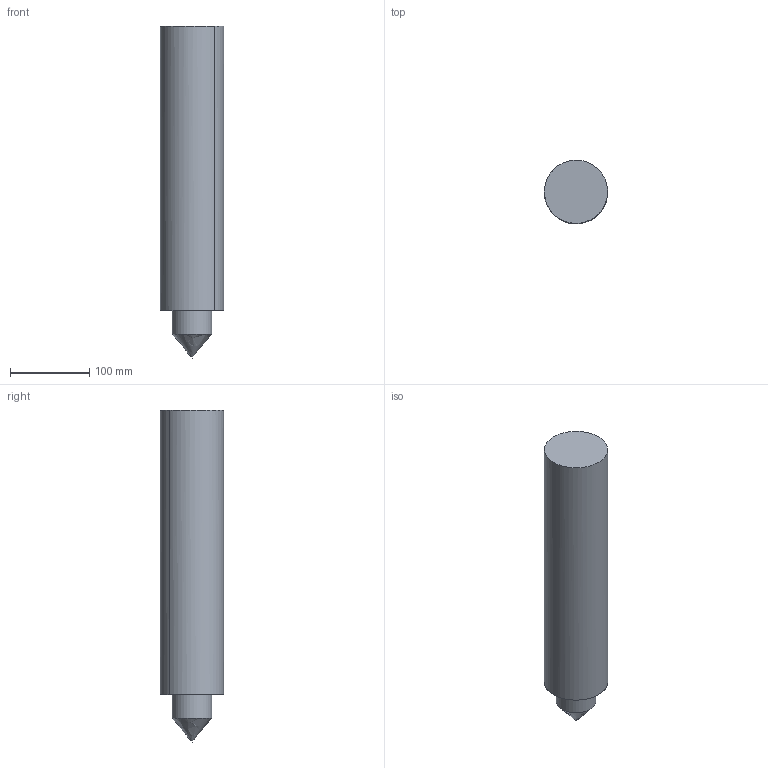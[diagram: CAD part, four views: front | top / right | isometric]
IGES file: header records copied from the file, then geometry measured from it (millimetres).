
Start section: This line is the first line of the start section. You can replace these lines and/or  add as many as you want.
Global section: file name: /dsk_ncs/ncsimul/support/trans/_bcd/w.igs; native system: COMPUTERVISION CADDS5 REV 5.3.2 GRAPHIC SYSTEM; preprocessor: CV Translators IGES/VDA Revision 2.1, STEP Revision 1.2; author: Author; organization: Organization; date: 970731.111002; units: millimetre
Bounding box: 79.97 x 79.97 x 420 mm (x, y, z)
Surface area: 108385.2 mm2 (no closed solid volume)
Topology: 0 solids, 0 shells, 6 faces, 35 edges, 35 vertices
Faces by surface type: bspline 4, revolution 2
